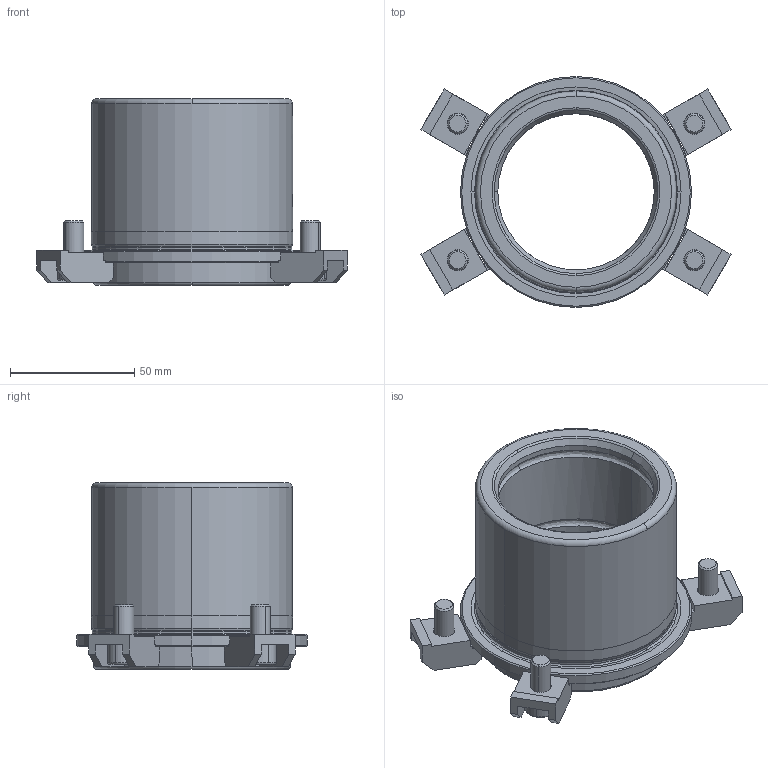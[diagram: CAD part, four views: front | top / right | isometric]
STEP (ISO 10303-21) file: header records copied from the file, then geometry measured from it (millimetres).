
FILE_DESCRIPTION((''),'2;1');
FILE_NAME('B12_063_014.stp','2008-11-04T13:52:20',(''),(''),'Mechanical Desktop 2009','Mechanical Desktop 2009',', , ');
FILE_SCHEMA(('CONFIG_CONTROL_DESIGN'));
Length unit declared in the file: millimetre
Products named in the file (2): Product; blmdl1
Assembly tree (1 placements, depth 2):
  Product
    blmdl1
Bounding box: 124.93 x 93 x 75 mm (x, y, z)
Volume: 171249.4 mm3; surface area: 53068.5 mm2
Topology: 9 solids, 9 shells, 236 faces, 612 edges, 403 vertices
Faces by surface type: plane 133, cylinder 52, cone 18, bspline 17, torus 16
Entity records: 8362 total; most frequent: CARTESIAN_POINT 2320, DIRECTION 1273, ORIENTED_EDGE 1224, EDGE_CURVE 612, AXIS2_PLACEMENT_3D 449, VERTEX_POINT 403, VECTOR 375, LINE 375
